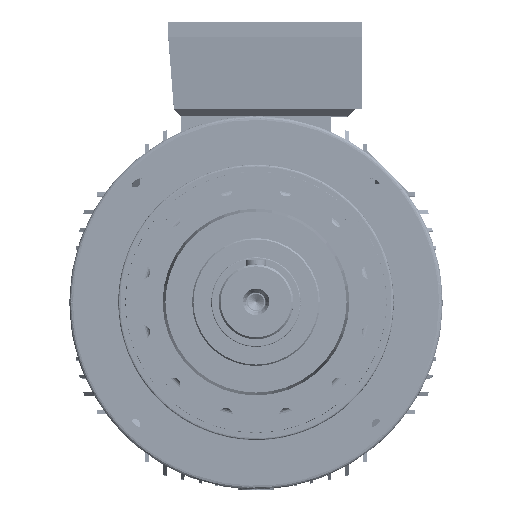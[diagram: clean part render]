
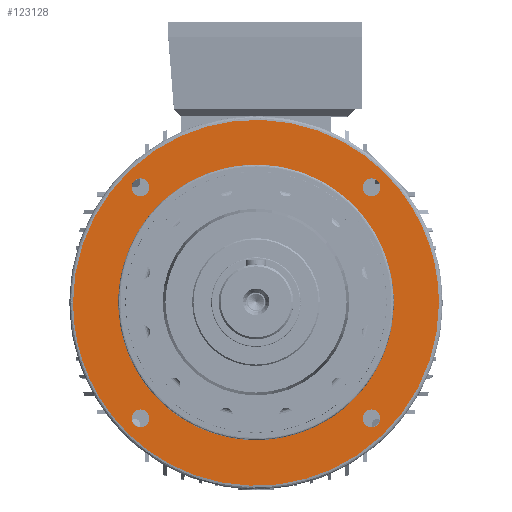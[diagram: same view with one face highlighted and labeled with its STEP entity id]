
A CAD part, top view. The second image highlights one B-rep face of the part: STEP entity #123128.
In plain terms, the highlighted planar face has unit normal (0, 0, 1).
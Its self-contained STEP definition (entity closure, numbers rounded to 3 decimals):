
#843 =( BOUNDED_CURVE ( )  B_SPLINE_CURVE ( 3, ( #105777, #105794, #105769, #105816 ),
 .UNSPECIFIED., .F., .F. ) 
 B_SPLINE_CURVE_WITH_KNOTS ( ( 4, 4 ),
 ( 0.5, 1. ),
 .UNSPECIFIED. ) 
 CURVE ( )  GEOMETRIC_REPRESENTATION_ITEM ( )  RATIONAL_B_SPLINE_CURVE ( ( 1., 0.333, 0.333, 1. ) ) 
 REPRESENTATION_ITEM ( '' )  );
#1790 =( BOUNDED_CURVE ( )  B_SPLINE_CURVE ( 3, ( #39967, #40061, #40009, #39958 ),
 .UNSPECIFIED., .F., .F. ) 
 B_SPLINE_CURVE_WITH_KNOTS ( ( 4, 4 ),
 ( 0., 0.5 ),
 .UNSPECIFIED. ) 
 CURVE ( )  GEOMETRIC_REPRESENTATION_ITEM ( )  RATIONAL_B_SPLINE_CURVE ( ( 1., 0.333, 0.333, 1. ) ) 
 REPRESENTATION_ITEM ( '' )  );
#12629 = VERTEX_POINT ( 'NONE', #122151 ) ;
#12640 = VERTEX_POINT ( 'NONE', #122276 ) ;
#12816 = VERTEX_POINT ( 'NONE', #119884 ) ;
#12832 = VERTEX_POINT ( 'NONE', #119899 ) ;
#12833 = VERTEX_POINT ( 'NONE', #119916 ) ;
#12836 = VERTEX_POINT ( 'NONE', #119935 ) ;
#12839 = VERTEX_POINT ( 'NONE', #119945 ) ;
#12845 = VERTEX_POINT ( 'NONE', #119923 ) ;
#12849 = VERTEX_POINT ( 'NONE', #119911 ) ;
#12859 = VERTEX_POINT ( 'NONE', #119925 ) ;
#12860 = VERTEX_POINT ( 'NONE', #119941 ) ;
#12893 = VERTEX_POINT ( 'NONE', #120019 ) ;
#15900 = ORIENTED_EDGE ( 'NONE', *, *, #47082, .T. ) ;
#15903 = ORIENTED_EDGE ( 'NONE', *, *, #65465, .F. ) ;
#15910 = ORIENTED_EDGE ( 'NONE', *, *, #47101, .F. ) ;
#15921 = ORIENTED_EDGE ( 'NONE', *, *, #61816, .T. ) ;
#15924 = ORIENTED_EDGE ( 'NONE', *, *, #61785, .T. ) ;
#15933 = ORIENTED_EDGE ( 'NONE', *, *, #47105, .T. ) ;
#15946 = ORIENTED_EDGE ( 'NONE', *, *, #61858, .T. ) ;
#15951 = ORIENTED_EDGE ( 'NONE', *, *, #61819, .T. ) ;
#15952 = ORIENTED_EDGE ( 'NONE', *, *, #47089, .T. ) ;
#15958 = ORIENTED_EDGE ( 'NONE', *, *, #47083, .T. ) ;
#15959 = ORIENTED_EDGE ( 'NONE', *, *, #61803, .T. ) ;
#15960 = ORIENTED_EDGE ( 'NONE', *, *, #47088, .T. ) ;
#38568 = FACE_BOUND ( 'NONE', #126274, .T. ) ;
#38581 = FACE_BOUND ( 'NONE', #126320, .T. ) ;
#38586 = FACE_BOUND ( 'NONE', #126322, .T. ) ;
#38596 = FACE_BOUND ( 'NONE', #126228, .T. ) ;
#38609 = FACE_BOUND ( 'NONE', #126236, .T. ) ;
#38620 = FACE_OUTER_BOUND ( 'NONE', #126226, .T. ) ;
#39958 = CARTESIAN_POINT ( 'NONE',  ( -196., 0., -116.5 ) ) ;
#39967 = CARTESIAN_POINT ( 'NONE',  ( 196., 0., -116.5 ) ) ;
#40009 = CARTESIAN_POINT ( 'NONE',  ( -196., -392., -116.5 ) ) ;
#40061 = CARTESIAN_POINT ( 'NONE',  ( 196., -392., -116.5 ) ) ;
#44361 = AXIS2_PLACEMENT_3D ( 'NONE', #57600, #57629, #57611 ) ;
#47082 = EDGE_CURVE ( 'NONE', #12833, #12836, #89498, .T. ) ;
#47083 = EDGE_CURVE ( 'NONE', #12832, #12859, #89464, .T. ) ;
#47088 = EDGE_CURVE ( 'NONE', #12893, #12839, #89534, .T. ) ;
#47089 = EDGE_CURVE ( 'NONE', #12849, #12816, #89494, .T. ) ;
#47101 = EDGE_CURVE ( 'NONE', #12629, #12640, #843, .T. ) ;
#47105 = EDGE_CURVE ( 'NONE', #12845, #12860, #89543, .T. ) ;
#57546 = PLANE ( 'NONE',  #44361 ) ;
#57600 = CARTESIAN_POINT ( 'NONE',  ( 0., 147., -116.5 ) ) ;
#57611 = DIRECTION ( 'NONE',  ( 1., 0., 0. ) ) ;
#57629 = DIRECTION ( 'NONE',  ( 0., 0., 1. ) ) ;
#61785 = EDGE_CURVE ( 'NONE', #12816, #12849, #68508, .T. ) ;
#61803 = EDGE_CURVE ( 'NONE', #12860, #12845, #68591, .T. ) ;
#61816 = EDGE_CURVE ( 'NONE', #12859, #12832, #68589, .T. ) ;
#61819 = EDGE_CURVE ( 'NONE', #12836, #12833, #68608, .T. ) ;
#61858 = EDGE_CURVE ( 'NONE', #12839, #12893, #68616, .T. ) ;
#65465 = EDGE_CURVE ( 'NONE', #12640, #12629, #1790, .T. ) ;
#68508 = CIRCLE ( 'NONE', #71524, 9.5 ) ;
#68589 = CIRCLE ( 'NONE', #71590, 9.5 ) ;
#68591 = CIRCLE ( 'NONE', #71520, 147. ) ;
#68608 = CIRCLE ( 'NONE', #71601, 9.5 ) ;
#68616 = CIRCLE ( 'NONE', #71565, 9.5 ) ;
#71520 = AXIS2_PLACEMENT_3D ( 'NONE', #72412, #72414, #72417 ) ;
#71524 = AXIS2_PLACEMENT_3D ( 'NONE', #112964, #113213, #113382 ) ;
#71565 = AXIS2_PLACEMENT_3D ( 'NONE', #72523, #72540, #72544 ) ;
#71590 = AXIS2_PLACEMENT_3D ( 'NONE', #72444, #72479, #72452 ) ;
#71601 = AXIS2_PLACEMENT_3D ( 'NONE', #72464, #72468, #72474 ) ;
#72412 = CARTESIAN_POINT ( 'NONE',  ( 0., 0., -116.5 ) ) ;
#72414 = DIRECTION ( 'NONE',  ( 0., 0., -1. ) ) ;
#72417 = DIRECTION ( 'NONE',  ( -1., 0., 0. ) ) ;
#72444 = CARTESIAN_POINT ( 'NONE',  ( -123.744, 123.744, -116.5 ) ) ;
#72452 = DIRECTION ( 'NONE',  ( 0., 1., 0. ) ) ;
#72464 = CARTESIAN_POINT ( 'NONE',  ( -123.744, -123.744, -116.5 ) ) ;
#72468 = DIRECTION ( 'NONE',  ( 0., 0., -1. ) ) ;
#72474 = DIRECTION ( 'NONE',  ( -1., 0., 0. ) ) ;
#72479 = DIRECTION ( 'NONE',  ( 0., 0., -1. ) ) ;
#72523 = CARTESIAN_POINT ( 'NONE',  ( 123.744, -123.744, -116.5 ) ) ;
#72540 = DIRECTION ( 'NONE',  ( 0., 0., -1. ) ) ;
#72544 = DIRECTION ( 'NONE',  ( 0., 1., 0. ) ) ;
#89464 = CIRCLE ( 'NONE', #100394, 9.5 ) ;
#89494 = CIRCLE ( 'NONE', #100308, 9.5 ) ;
#89498 = CIRCLE ( 'NONE', #100295, 9.5 ) ;
#89534 = CIRCLE ( 'NONE', #100342, 9.5 ) ;
#89543 = CIRCLE ( 'NONE', #100280, 147. ) ;
#100280 = AXIS2_PLACEMENT_3D ( 'NONE', #105840, #105825, #105855 ) ;
#100295 = AXIS2_PLACEMENT_3D ( 'NONE', #105672, #105676, #105687 ) ;
#100308 = AXIS2_PLACEMENT_3D ( 'NONE', #105659, #105728, #105758 ) ;
#100342 = AXIS2_PLACEMENT_3D ( 'NONE', #105643, #105639, #105704 ) ;
#100394 = AXIS2_PLACEMENT_3D ( 'NONE', #105673, #105705, #105694 ) ;
#105639 = DIRECTION ( 'NONE',  ( 0., 0., -1. ) ) ;
#105643 = CARTESIAN_POINT ( 'NONE',  ( 123.744, -123.744, -116.5 ) ) ;
#105659 = CARTESIAN_POINT ( 'NONE',  ( 123.744, 123.744, -116.5 ) ) ;
#105672 = CARTESIAN_POINT ( 'NONE',  ( -123.744, -123.744, -116.5 ) ) ;
#105673 = CARTESIAN_POINT ( 'NONE',  ( -123.744, 123.744, -116.5 ) ) ;
#105676 = DIRECTION ( 'NONE',  ( 0., 0., -1. ) ) ;
#105687 = DIRECTION ( 'NONE',  ( -1., 0., 0. ) ) ;
#105694 = DIRECTION ( 'NONE',  ( 0., 1., 0. ) ) ;
#105704 = DIRECTION ( 'NONE',  ( 0., 1., 0. ) ) ;
#105705 = DIRECTION ( 'NONE',  ( 0., 0., -1. ) ) ;
#105728 = DIRECTION ( 'NONE',  ( 0., 0., -1. ) ) ;
#105758 = DIRECTION ( 'NONE',  ( -1., 0., 0. ) ) ;
#105769 = CARTESIAN_POINT ( 'NONE',  ( 196., 392., -116.5 ) ) ;
#105777 = CARTESIAN_POINT ( 'NONE',  ( -196., 0., -116.5 ) ) ;
#105794 = CARTESIAN_POINT ( 'NONE',  ( -196., 392., -116.5 ) ) ;
#105816 = CARTESIAN_POINT ( 'NONE',  ( 196., 0., -116.5 ) ) ;
#105825 = DIRECTION ( 'NONE',  ( 0., 0., -1. ) ) ;
#105840 = CARTESIAN_POINT ( 'NONE',  ( 0., 0., -116.5 ) ) ;
#105855 = DIRECTION ( 'NONE',  ( -1., 0., 0. ) ) ;
#112964 = CARTESIAN_POINT ( 'NONE',  ( 123.744, 123.744, -116.5 ) ) ;
#113213 = DIRECTION ( 'NONE',  ( 0., 0., -1. ) ) ;
#113382 = DIRECTION ( 'NONE',  ( -1., 0., 0. ) ) ;
#119884 = CARTESIAN_POINT ( 'NONE',  ( 133.244, 123.744, -116.5 ) ) ;
#119899 = CARTESIAN_POINT ( 'NONE',  ( -123.744, 133.244, -116.5 ) ) ;
#119911 = CARTESIAN_POINT ( 'NONE',  ( 114.244, 123.744, -116.5 ) ) ;
#119916 = CARTESIAN_POINT ( 'NONE',  ( -133.244, -123.744, -116.5 ) ) ;
#119923 = CARTESIAN_POINT ( 'NONE',  ( 147., 0., -116.5 ) ) ;
#119925 = CARTESIAN_POINT ( 'NONE',  ( -123.744, 114.244, -116.5 ) ) ;
#119935 = CARTESIAN_POINT ( 'NONE',  ( -114.244, -123.744, -116.5 ) ) ;
#119941 = CARTESIAN_POINT ( 'NONE',  ( -147., 0., -116.5 ) ) ;
#119945 = CARTESIAN_POINT ( 'NONE',  ( 123.744, -133.244, -116.5 ) ) ;
#120019 = CARTESIAN_POINT ( 'NONE',  ( 123.744, -114.244, -116.5 ) ) ;
#122151 = CARTESIAN_POINT ( 'NONE',  ( -196., 0., -116.5 ) ) ;
#122276 = CARTESIAN_POINT ( 'NONE',  ( 196., 0., -116.5 ) ) ;
#123128 = ADVANCED_FACE ( 'NONE', ( #38586, #38620, #38609, #38596, #38568, #38581 ), #57546, .T. ) ;
#126226 = EDGE_LOOP ( 'NONE', ( #15903, #15910 ) ) ;
#126228 = EDGE_LOOP ( 'NONE', ( #15900, #15951 ) ) ;
#126236 = EDGE_LOOP ( 'NONE', ( #15958, #15921 ) ) ;
#126274 = EDGE_LOOP ( 'NONE', ( #15960, #15946 ) ) ;
#126320 = EDGE_LOOP ( 'NONE', ( #15952, #15924 ) ) ;
#126322 = EDGE_LOOP ( 'NONE', ( #15959, #15933 ) ) ;
